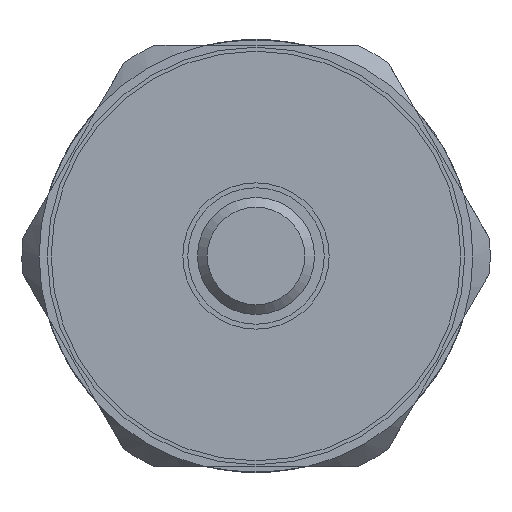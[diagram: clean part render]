
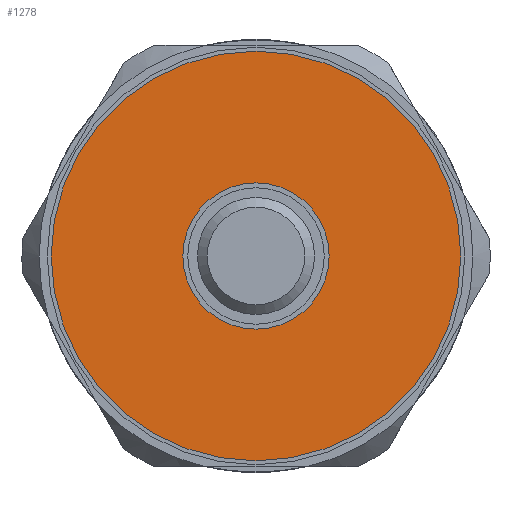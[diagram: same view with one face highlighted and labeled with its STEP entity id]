
A CAD part, left-side view. The second image highlights one B-rep face of the part: STEP entity #1278.
In plain terms, the highlighted planar face has unit normal (-1, 0, 0).
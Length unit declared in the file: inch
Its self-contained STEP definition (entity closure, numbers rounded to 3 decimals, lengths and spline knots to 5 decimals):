
#68=FACE_BOUND('',#217,.T.);
#96=PLANE('',#1406);
#143=FACE_OUTER_BOUND('',#216,.T.);
#216=EDGE_LOOP('',(#959,#960));
#217=EDGE_LOOP('',(#961,#962));
#376=CIRCLE('',#1351,0.14764);
#377=CIRCLE('',#1352,0.14764);
#406=CIRCLE('',#1407,0.41339);
#407=CIRCLE('',#1408,0.41339);
#487=VERTEX_POINT('',#1953);
#488=VERTEX_POINT('',#1954);
#541=VERTEX_POINT('',#2162);
#542=VERTEX_POINT('',#2163);
#621=EDGE_CURVE('',#487,#488,#376,.T.);
#622=EDGE_CURVE('',#488,#487,#377,.T.);
#702=EDGE_CURVE('',#541,#542,#406,.T.);
#703=EDGE_CURVE('',#542,#541,#407,.T.);
#959=ORIENTED_EDGE('',*,*,#702,.T.);
#960=ORIENTED_EDGE('',*,*,#703,.T.);
#961=ORIENTED_EDGE('',*,*,#621,.T.);
#962=ORIENTED_EDGE('',*,*,#622,.T.);
#1278=ADVANCED_FACE('',(#143,#68),#96,.T.);
#1351=AXIS2_PLACEMENT_3D('',#1955,#1543,#1544);
#1352=AXIS2_PLACEMENT_3D('',#1956,#1545,#1546);
#1406=AXIS2_PLACEMENT_3D('',#2161,#1680,#1681);
#1407=AXIS2_PLACEMENT_3D('',#2164,#1682,#1683);
#1408=AXIS2_PLACEMENT_3D('',#2165,#1684,#1685);
#1543=DIRECTION('center_axis',(1.,0.,0.));
#1544=DIRECTION('ref_axis',(0.,0.866,-0.5));
#1545=DIRECTION('center_axis',(1.,0.,0.));
#1546=DIRECTION('ref_axis',(0.,0.866,-0.5));
#1680=DIRECTION('center_axis',(-1.,0.,0.));
#1681=DIRECTION('ref_axis',(0.,0.866,-0.5));
#1682=DIRECTION('center_axis',(-1.,0.,0.));
#1683=DIRECTION('ref_axis',(0.,0.866,-0.5));
#1684=DIRECTION('center_axis',(-1.,0.,0.));
#1685=DIRECTION('ref_axis',(0.,0.866,-0.5));
#1953=CARTESIAN_POINT('',(-2.25408,0.22916,-0.41816));
#1954=CARTESIAN_POINT('',(-2.25408,-0.02656,-0.27052));
#1955=CARTESIAN_POINT('Origin',(-2.25408,0.1013,-0.34434));
#1956=CARTESIAN_POINT('Origin',(-2.25408,0.1013,-0.34434));
#2161=CARTESIAN_POINT('Origin',(-2.25408,0.1013,-0.34434));
#2162=CARTESIAN_POINT('',(-2.25408,0.4593,-0.55103));
#2163=CARTESIAN_POINT('',(-2.25408,-0.2567,-0.13765));
#2164=CARTESIAN_POINT('Origin',(-2.25408,0.1013,-0.34434));
#2165=CARTESIAN_POINT('Origin',(-2.25408,0.1013,-0.34434));
